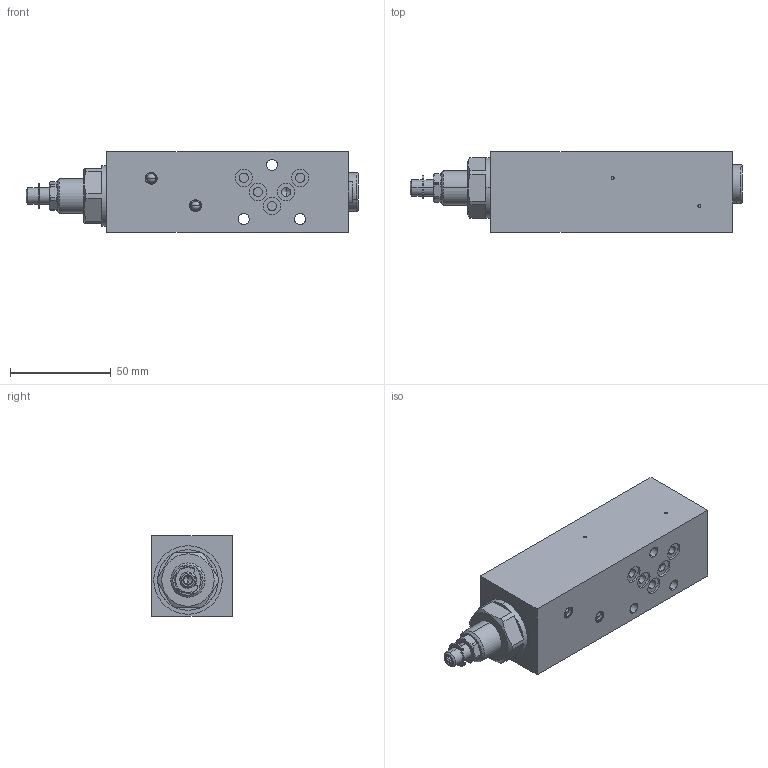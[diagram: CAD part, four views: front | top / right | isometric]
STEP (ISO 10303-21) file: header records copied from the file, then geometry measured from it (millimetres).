
FILE_DESCRIPTION (( 'STEP AP214' ), '1' );
FILE_NAME ('MVSFA04-P_A.STEP', '2017-03-23T06:30:49', ( '' ), ( '' ), 'SwSTEP 2.0', 'SolidWorks 2016', '' );
FILE_SCHEMA (( 'AUTOMOTIVE_DESIGN' ));
Length unit declared in the file: millimetre
Products named in the file (1): MVSFA04-P_A
Bounding box: 164.8 x 40 x 40 mm (x, y, z)
Volume: 199582.7 mm3; surface area: 28412.3 mm2
Topology: 2 solids, 4 shells, 303 faces, 738 edges, 481 vertices
Faces by surface type: plane 131, cylinder 99, cone 43, bspline 16, sphere 12, torus 2
Entity records: 13323 total; most frequent: CARTESIAN_POINT 2778, DIRECTION 1523, ORIENTED_EDGE 1464, EDGE_CURVE 732, AXIS2_PLACEMENT_3D 588, VERTEX_POINT 481, EDGE_LOOP 353, LINE 347
